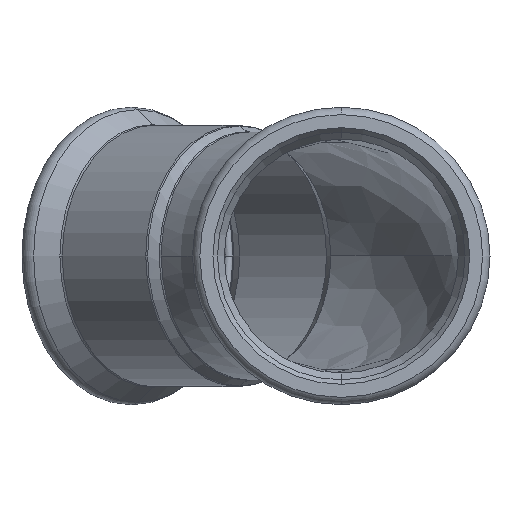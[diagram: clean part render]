
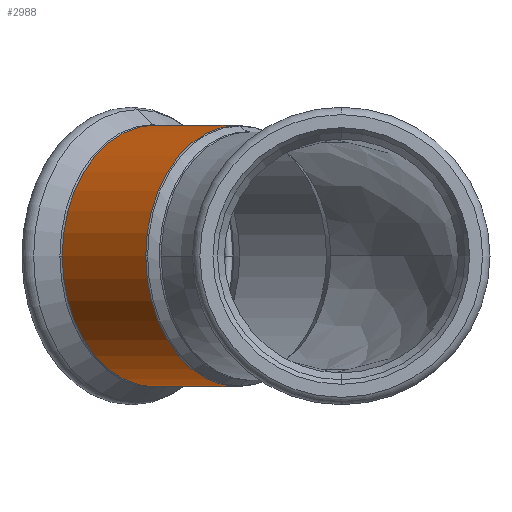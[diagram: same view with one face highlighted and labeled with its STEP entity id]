
A CAD part, left-side view. The second image highlights one B-rep face of the part: STEP entity #2988.
In plain terms, the highlighted cylindrical face has radius 28.7 mm (diameter 57.4 mm), a partial arc.
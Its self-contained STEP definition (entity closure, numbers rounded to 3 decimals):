
#174 = CIRCLE ( 'NONE', #1118, 28.7 ) ;
#503 = ORIENTED_EDGE ( 'NONE', *, *, #4123, .T. ) ;
#627 = EDGE_CURVE ( 'NONE', #2078, #3961, #1272, .T. ) ;
#711 = LINE ( 'NONE', #765, #1742 ) ;
#765 = CARTESIAN_POINT ( 'NONE',  ( 49.497, -49.497, 28.7 ) ) ;
#799 = DIRECTION ( 'NONE',  ( 0.707, -0.707, 0. ) ) ;
#875 = EDGE_LOOP ( 'NONE', ( #3180, #2012, #4077, #503, #2284, #3225 ) ) ;
#1028 = VERTEX_POINT ( 'NONE', #1360 ) ;
#1051 = VERTEX_POINT ( 'NONE', #1406 ) ;
#1112 = AXIS2_PLACEMENT_3D ( 'NONE', #4190, #2437, #3081 ) ;
#1118 = AXIS2_PLACEMENT_3D ( 'NONE', #3790, #3852, #3807 ) ;
#1174 = CARTESIAN_POINT ( 'NONE',  ( 51.669, -47.326, -28.7 ) ) ;
#1191 = DIRECTION ( 'NONE',  ( 0.707, 0.707, 0. ) ) ;
#1272 = CIRCLE ( 'NONE', #2971, 28.7 ) ;
#1360 = CARTESIAN_POINT ( 'NONE',  ( 70.016, -28.979, -28.7 ) ) ;
#1380 = DIRECTION ( 'NONE',  ( -0.707, -0.707, 0. ) ) ;
#1387 = VECTOR ( 'NONE', #3632, 1000. ) ;
#1406 = CARTESIAN_POINT ( 'NONE',  ( 49.722, -8.685, 0. ) ) ;
#1541 = CIRCLE ( 'NONE', #3412, 28.7 ) ;
#1742 = VECTOR ( 'NONE', #1380, 1000. ) ;
#1898 = DIRECTION ( 'NONE',  ( 0.707, -0.707, 0. ) ) ;
#2012 = ORIENTED_EDGE ( 'NONE', *, *, #4229, .T. ) ;
#2078 = VERTEX_POINT ( 'NONE', #1174 ) ;
#2087 = CARTESIAN_POINT ( 'NONE',  ( 51.669, -47.326, 28.7 ) ) ;
#2284 = ORIENTED_EDGE ( 'NONE', *, *, #627, .T. ) ;
#2437 = DIRECTION ( 'NONE',  ( -0.707, -0.707, 0. ) ) ;
#2585 = LINE ( 'NONE', #3959, #1387 ) ;
#2612 = CARTESIAN_POINT ( 'NONE',  ( 49.497, -49.497, 0. ) ) ;
#2641 = EDGE_CURVE ( 'NONE', #1051, #1028, #174, .T. ) ;
#2647 = CARTESIAN_POINT ( 'NONE',  ( 51.669, -47.326, 0. ) ) ;
#2787 = VERTEX_POINT ( 'NONE', #2087 ) ;
#2925 = CYLINDRICAL_SURFACE ( 'NONE', #4283, 28.7 ) ;
#2971 = AXIS2_PLACEMENT_3D ( 'NONE', #2980, #1191, #1898 ) ;
#2975 = DIRECTION ( 'NONE',  ( 0., 0., -1. ) ) ;
#2980 = CARTESIAN_POINT ( 'NONE',  ( 51.669, -47.326, 0. ) ) ;
#2988 = ADVANCED_FACE ( 'NONE', ( #3372 ), #2925, .T. ) ;
#2997 = DIRECTION ( 'NONE',  ( -0.707, -0.707, 0. ) ) ;
#3047 = CARTESIAN_POINT ( 'NONE',  ( 70.016, -28.979, 28.7 ) ) ;
#3069 = CARTESIAN_POINT ( 'NONE',  ( 31.375, -27.032, 0. ) ) ;
#3081 = DIRECTION ( 'NONE',  ( -0.707, 0.707, 0. ) ) ;
#3180 = ORIENTED_EDGE ( 'NONE', *, *, #4029, .F. ) ;
#3225 = ORIENTED_EDGE ( 'NONE', *, *, #3267, .T. ) ;
#3267 = EDGE_CURVE ( 'NONE', #3961, #2787, #1541, .T. ) ;
#3372 = FACE_OUTER_BOUND ( 'NONE', #875, .T. ) ;
#3412 = AXIS2_PLACEMENT_3D ( 'NONE', #2647, #3540, #799 ) ;
#3540 = DIRECTION ( 'NONE',  ( 0.707, 0.707, 0. ) ) ;
#3632 = DIRECTION ( 'NONE',  ( -0.707, -0.707, 0. ) ) ;
#3697 = VERTEX_POINT ( 'NONE', #3047 ) ;
#3790 = CARTESIAN_POINT ( 'NONE',  ( 70.016, -28.979, 0. ) ) ;
#3807 = DIRECTION ( 'NONE',  ( -0.707, 0.707, 0. ) ) ;
#3852 = DIRECTION ( 'NONE',  ( -0.707, -0.707, 0. ) ) ;
#3959 = CARTESIAN_POINT ( 'NONE',  ( 49.497, -49.497, -28.7 ) ) ;
#3961 = VERTEX_POINT ( 'NONE', #3069 ) ;
#4029 = EDGE_CURVE ( 'NONE', #3697, #2787, #711, .T. ) ;
#4077 = ORIENTED_EDGE ( 'NONE', *, *, #2641, .T. ) ;
#4123 = EDGE_CURVE ( 'NONE', #1028, #2078, #2585, .T. ) ;
#4190 = CARTESIAN_POINT ( 'NONE',  ( 70.016, -28.979, 0. ) ) ;
#4229 = EDGE_CURVE ( 'NONE', #3697, #1051, #4419, .T. ) ;
#4283 = AXIS2_PLACEMENT_3D ( 'NONE', #2612, #2997, #2975 ) ;
#4419 = CIRCLE ( 'NONE', #1112, 28.7 ) ;
